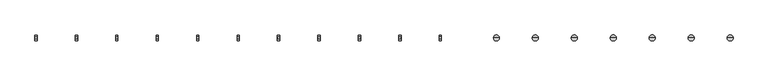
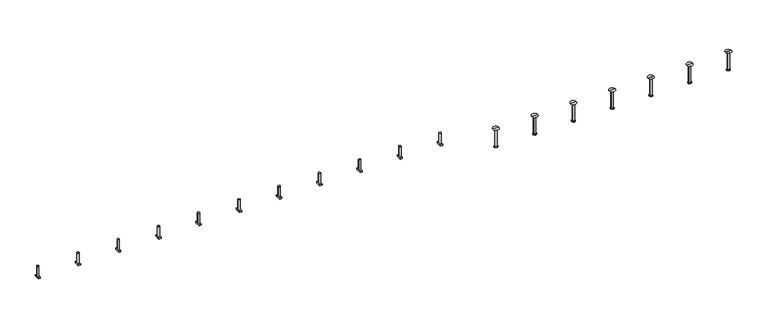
"""IFC4 building model written with IfcOpenShell, lengths in millimetres: fastener geometry, JTA-W JORDAHL® AnchorChannels : JTA-W L=6000 mm."""

from ifc_helpers import new_model, si_unit, frame, origin, place, context, project, spatial, polyline, circle_curve, source, transform, mapped, element, save
from ifc_brep_helpers import plane_surface, cylinder_surface, revolved_surface, advanced_brep


def fastener_c7c1462d(model_context):
    return source(origin(), model_context, "Body", "AdvancedBrep", [
        advanced_brep(
        [(3470.3421053, -20.7, -10.0), (3470.3421053, -20.7, -21.0), (3470.3421053, 20.7, -21.0), (3470.3421053, 20.7, -10.0), (3453.3421053, -20.7, -10.0), (3453.3421053, 20.7, -10.0), (3453.3421053, 20.7, -21.0), (3453.3421053, -20.7, -21.0), (3469.8421053, 0.0, -10.0), (3453.8421053, 0.0, -10.0), (3453.8421053, 0.0, 70.0), (3469.8421053, 0.0, 70.0)],
        [
            (0, 1),
            (1, 2),
            (2, 3),
            (3, 0),
            (4, 5),
            (5, 6),
            (6, 7),
            (7, 4),
            (3, 5),
            (4, 0),
            (8, 9, circle_curve(frame((3461.8421053, 0.0, -10.0), z_axis=(0.0, 0.0, -1.0), x_axis=(1.0, 0.0, 0.0)), 8.0)),
            (9, 8, circle_curve(frame((3461.8421053, 0.0, -10.0), z_axis=(0.0, 0.0, -1.0), x_axis=(1.0, 0.0, 0.0)), 8.0)),
            (2, 6),
            (1, 7),
            (10, 11, circle_curve(frame((3461.8421053, 0.0, 70.0), z_axis=(0.0, 0.0, 1.0), x_axis=(1.0, 0.0, 0.0)), 8.0)),
            (11, 10, circle_curve(frame((3461.8421053, 0.0, 70.0), z_axis=(0.0, 0.0, 1.0), x_axis=(1.0, 0.0, 0.0)), 8.0)),
            (11, 8),
            (9, 10),
        ],
        [
            plane_surface(frame((3470.3421053, 20.7, -10.0), z_axis=(1.0, 0.0, 0.0), x_axis=(0.0, 1.0, 0.0))),
            plane_surface(frame((3453.3421053, 20.7, -10.0), z_axis=(-1.0, 0.0, 0.0), x_axis=(0.0, -1.0, 0.0))),
            plane_surface(frame((3470.3421053, -20.7, -10.0), z_axis=(0.0, 0.0, 1.0), x_axis=(-1.0, 0.0, 0.0))),
            plane_surface(frame((3470.3421053, 20.7, -10.0), z_axis=(0.0, 1.0, 0.0), x_axis=(-1.0, 0.0, 0.0))),
            plane_surface(frame((3470.3421053, 20.7, -21.0), z_axis=(0.0, 0.0, -1.0), x_axis=(-1.0, 0.0, 0.0))),
            plane_surface(frame((3470.3421053, -20.7, -21.0), z_axis=(0.0, -1.0, 0.0), x_axis=(-1.0, 0.0, 0.0))),
            plane_surface(frame((3469.8421053, 0.0, 70.0), z_axis=(0.0, 0.0, 1.0), x_axis=(0.0, -1.0, 0.0))),
            cylinder_surface(frame((3461.8421053, 0.0, -10.0), z_axis=(0.0, 0.0, 1.0), x_axis=(1.0, 0.0, 0.0)), 8.0),
        ],
        [
            (0, [[1, 2, 3, 4]]),
            (1, [[5, 6, 7, 8]]),
            (2, [[9, -5, 10, -4], [11, 12]]),
            (3, [[13, -6, -9, -3]]),
            (4, [[14, -7, -13, -2]]),
            (5, [[-10, -8, -14, -1]]),
            (6, [[15, 16]]),
            (7, [[17, -12, 18, -16]]),
            (7, [[-18, -11, -17, -15]]),
        ],
    ),
        advanced_brep(
        [(3162.4473684, -20.7, -10.0), (3162.4473684, -20.7, -21.0), (3162.4473684, 20.7, -21.0), (3162.4473684, 20.7, -10.0), (3145.4473684, -20.7, -10.0), (3145.4473684, 20.7, -10.0), (3145.4473684, 20.7, -21.0), (3145.4473684, -20.7, -21.0), (3161.9473684, 0.0, -10.0), (3145.9473684, 0.0, -10.0), (3145.9473684, 0.0, 70.0), (3161.9473684, 0.0, 70.0)],
        [
            (0, 1),
            (1, 2),
            (2, 3),
            (3, 0),
            (4, 5),
            (5, 6),
            (6, 7),
            (7, 4),
            (3, 5),
            (4, 0),
            (8, 9, circle_curve(frame((3153.9473684, 0.0, -10.0), z_axis=(0.0, 0.0, -1.0), x_axis=(1.0, 0.0, 0.0)), 8.0)),
            (9, 8, circle_curve(frame((3153.9473684, 0.0, -10.0), z_axis=(0.0, 0.0, -1.0), x_axis=(1.0, 0.0, 0.0)), 8.0)),
            (2, 6),
            (1, 7),
            (10, 11, circle_curve(frame((3153.9473684, 0.0, 70.0), z_axis=(0.0, 0.0, 1.0), x_axis=(1.0, 0.0, 0.0)), 8.0)),
            (11, 10, circle_curve(frame((3153.9473684, 0.0, 70.0), z_axis=(0.0, 0.0, 1.0), x_axis=(1.0, 0.0, 0.0)), 8.0)),
            (11, 8),
            (9, 10),
        ],
        [
            plane_surface(frame((3162.4473684, 20.7, -10.0), z_axis=(1.0, 0.0, 0.0), x_axis=(0.0, 1.0, 0.0))),
            plane_surface(frame((3145.4473684, 20.7, -10.0), z_axis=(-1.0, 0.0, 0.0), x_axis=(0.0, -1.0, 0.0))),
            plane_surface(frame((3162.4473684, -20.7, -10.0), z_axis=(0.0, 0.0, 1.0), x_axis=(-1.0, 0.0, 0.0))),
            plane_surface(frame((3162.4473684, 20.7, -10.0), z_axis=(0.0, 1.0, 0.0), x_axis=(-1.0, 0.0, 0.0))),
            plane_surface(frame((3162.4473684, 20.7, -21.0), z_axis=(0.0, 0.0, -1.0), x_axis=(-1.0, 0.0, 0.0))),
            plane_surface(frame((3162.4473684, -20.7, -21.0), z_axis=(0.0, -1.0, 0.0), x_axis=(-1.0, 0.0, 0.0))),
            plane_surface(frame((3161.9473684, 0.0, 70.0), z_axis=(0.0, 0.0, 1.0), x_axis=(0.0, -1.0, 0.0))),
            cylinder_surface(frame((3153.9473684, 0.0, -10.0), z_axis=(0.0, 0.0, 1.0), x_axis=(1.0, 0.0, 0.0)), 8.0),
        ],
        [
            (0, [[1, 2, 3, 4]]),
            (1, [[5, 6, 7, 8]]),
            (2, [[9, -5, 10, -4], [11, 12]]),
            (3, [[13, -6, -9, -3]]),
            (4, [[14, -7, -13, -2]]),
            (5, [[-10, -8, -14, -1]]),
            (6, [[15, 16]]),
            (7, [[17, -12, 18, -16]]),
            (7, [[-18, -11, -17, -15]]),
        ],
    ),
        advanced_brep(
        [(2854.5526316, -20.7, -10.0), (2854.5526316, -20.7, -21.0), (2854.5526316, 20.7, -21.0), (2854.5526316, 20.7, -10.0), (2837.5526316, -20.7, -10.0), (2837.5526316, 20.7, -10.0), (2837.5526316, 20.7, -21.0), (2837.5526316, -20.7, -21.0), (2854.0526316, 0.0, -10.0), (2838.0526316, 0.0, -10.0), (2838.0526316, 0.0, 70.0), (2854.0526316, 0.0, 70.0)],
        [
            (0, 1),
            (1, 2),
            (2, 3),
            (3, 0),
            (4, 5),
            (5, 6),
            (6, 7),
            (7, 4),
            (3, 5),
            (4, 0),
            (8, 9, circle_curve(frame((2846.0526316, 0.0, -10.0), z_axis=(0.0, 0.0, -1.0), x_axis=(1.0, 0.0, 0.0)), 8.0)),
            (9, 8, circle_curve(frame((2846.0526316, 0.0, -10.0), z_axis=(0.0, 0.0, -1.0), x_axis=(1.0, 0.0, 0.0)), 8.0)),
            (2, 6),
            (1, 7),
            (10, 11, circle_curve(frame((2846.0526316, 0.0, 70.0), z_axis=(0.0, 0.0, 1.0), x_axis=(1.0, 0.0, 0.0)), 8.0)),
            (11, 10, circle_curve(frame((2846.0526316, 0.0, 70.0), z_axis=(0.0, 0.0, 1.0), x_axis=(1.0, 0.0, 0.0)), 8.0)),
            (11, 8),
            (9, 10),
        ],
        [
            plane_surface(frame((2854.5526316, 20.7, -10.0), z_axis=(1.0, 0.0, 0.0), x_axis=(0.0, 1.0, 0.0))),
            plane_surface(frame((2837.5526316, 20.7, -10.0), z_axis=(-1.0, 0.0, 0.0), x_axis=(0.0, -1.0, 0.0))),
            plane_surface(frame((2854.5526316, -20.7, -10.0), z_axis=(0.0, 0.0, 1.0), x_axis=(-1.0, 0.0, 0.0))),
            plane_surface(frame((2854.5526316, 20.7, -10.0), z_axis=(0.0, 1.0, 0.0), x_axis=(-1.0, 0.0, 0.0))),
            plane_surface(frame((2854.5526316, 20.7, -21.0), z_axis=(0.0, 0.0, -1.0), x_axis=(-1.0, 0.0, 0.0))),
            plane_surface(frame((2854.5526316, -20.7, -21.0), z_axis=(0.0, -1.0, 0.0), x_axis=(-1.0, 0.0, 0.0))),
            plane_surface(frame((2854.0526316, 0.0, 70.0), z_axis=(0.0, 0.0, 1.0), x_axis=(0.0, -1.0, 0.0))),
            cylinder_surface(frame((2846.0526316, 0.0, -10.0), z_axis=(0.0, 0.0, 1.0), x_axis=(1.0, 0.0, 0.0)), 8.0),
        ],
        [
            (0, [[1, 2, 3, 4]]),
            (1, [[5, 6, 7, 8]]),
            (2, [[9, -5, 10, -4], [11, 12]]),
            (3, [[13, -6, -9, -3]]),
            (4, [[14, -7, -13, -2]]),
            (5, [[-10, -8, -14, -1]]),
            (6, [[15, 16]]),
            (7, [[17, -12, 18, -16]]),
            (7, [[-18, -11, -17, -15]]),
        ],
    ),
        advanced_brep(
        [(2546.6578947, -20.7, -10.0), (2546.6578947, -20.7, -21.0), (2546.6578947, 20.7, -21.0), (2546.6578947, 20.7, -10.0), (2529.6578947, -20.7, -10.0), (2529.6578947, 20.7, -10.0), (2529.6578947, 20.7, -21.0), (2529.6578947, -20.7, -21.0), (2546.1578947, 0.0, -10.0), (2530.1578947, 0.0, -10.0), (2530.1578947, 0.0, 70.0), (2546.1578947, 0.0, 70.0)],
        [
            (0, 1),
            (1, 2),
            (2, 3),
            (3, 0),
            (4, 5),
            (5, 6),
            (6, 7),
            (7, 4),
            (3, 5),
            (4, 0),
            (8, 9, circle_curve(frame((2538.1578947, 0.0, -10.0), z_axis=(0.0, 0.0, -1.0), x_axis=(1.0, 0.0, 0.0)), 8.0)),
            (9, 8, circle_curve(frame((2538.1578947, 0.0, -10.0), z_axis=(0.0, 0.0, -1.0), x_axis=(1.0, 0.0, 0.0)), 8.0)),
            (2, 6),
            (1, 7),
            (10, 11, circle_curve(frame((2538.1578947, 0.0, 70.0), z_axis=(0.0, 0.0, 1.0), x_axis=(1.0, 0.0, 0.0)), 8.0)),
            (11, 10, circle_curve(frame((2538.1578947, 0.0, 70.0), z_axis=(0.0, 0.0, 1.0), x_axis=(1.0, 0.0, 0.0)), 8.0)),
            (11, 8),
            (9, 10),
        ],
        [
            plane_surface(frame((2546.6578947, 20.7, -10.0), z_axis=(1.0, 0.0, 0.0), x_axis=(0.0, 1.0, 0.0))),
            plane_surface(frame((2529.6578947, 20.7, -10.0), z_axis=(-1.0, 0.0, 0.0), x_axis=(0.0, -1.0, 0.0))),
            plane_surface(frame((2546.6578947, -20.7, -10.0), z_axis=(0.0, 0.0, 1.0), x_axis=(-1.0, 0.0, 0.0))),
            plane_surface(frame((2546.6578947, 20.7, -10.0), z_axis=(0.0, 1.0, 0.0), x_axis=(-1.0, 0.0, 0.0))),
            plane_surface(frame((2546.6578947, 20.7, -21.0), z_axis=(0.0, 0.0, -1.0), x_axis=(-1.0, 0.0, 0.0))),
            plane_surface(frame((2546.6578947, -20.7, -21.0), z_axis=(0.0, -1.0, 0.0), x_axis=(-1.0, 0.0, 0.0))),
            plane_surface(frame((2546.1578947, 0.0, 70.0), z_axis=(0.0, 0.0, 1.0), x_axis=(0.0, -1.0, 0.0))),
            cylinder_surface(frame((2538.1578947, 0.0, -10.0), z_axis=(0.0, 0.0, 1.0), x_axis=(1.0, 0.0, 0.0)), 8.0),
        ],
        [
            (0, [[1, 2, 3, 4]]),
            (1, [[5, 6, 7, 8]]),
            (2, [[9, -5, 10, -4], [11, 12]]),
            (3, [[13, -6, -9, -3]]),
            (4, [[14, -7, -13, -2]]),
            (5, [[-10, -8, -14, -1]]),
            (6, [[15, 16]]),
            (7, [[17, -12, 18, -16]]),
            (7, [[-18, -11, -17, -15]]),
        ],
    ),
        advanced_brep(
        [(2238.7631579, -20.7, -10.0), (2238.7631579, -20.7, -21.0), (2238.7631579, 20.7, -21.0), (2238.7631579, 20.7, -10.0), (2221.7631579, -20.7, -10.0), (2221.7631579, 20.7, -10.0), (2221.7631579, 20.7, -21.0), (2221.7631579, -20.7, -21.0), (2238.2631579, 0.0, -10.0), (2222.2631579, 0.0, -10.0), (2222.2631579, 0.0, 70.0), (2238.2631579, 0.0, 70.0)],
        [
            (0, 1),
            (1, 2),
            (2, 3),
            (3, 0),
            (4, 5),
            (5, 6),
            (6, 7),
            (7, 4),
            (3, 5),
            (4, 0),
            (8, 9, circle_curve(frame((2230.2631579, 0.0, -10.0), z_axis=(0.0, 0.0, -1.0), x_axis=(1.0, 0.0, 0.0)), 8.0)),
            (9, 8, circle_curve(frame((2230.2631579, 0.0, -10.0), z_axis=(0.0, 0.0, -1.0), x_axis=(1.0, 0.0, 0.0)), 8.0)),
            (2, 6),
            (1, 7),
            (10, 11, circle_curve(frame((2230.2631579, 0.0, 70.0), z_axis=(0.0, 0.0, 1.0), x_axis=(1.0, 0.0, 0.0)), 8.0)),
            (11, 10, circle_curve(frame((2230.2631579, 0.0, 70.0), z_axis=(0.0, 0.0, 1.0), x_axis=(1.0, 0.0, 0.0)), 8.0)),
            (11, 8),
            (9, 10),
        ],
        [
            plane_surface(frame((2238.7631579, 20.7, -10.0), z_axis=(1.0, 0.0, 0.0), x_axis=(0.0, 1.0, 0.0))),
            plane_surface(frame((2221.7631579, 20.7, -10.0), z_axis=(-1.0, 0.0, 0.0), x_axis=(0.0, -1.0, 0.0))),
            plane_surface(frame((2238.7631579, -20.7, -10.0), z_axis=(0.0, 0.0, 1.0), x_axis=(-1.0, 0.0, 0.0))),
            plane_surface(frame((2238.7631579, 20.7, -10.0), z_axis=(0.0, 1.0, 0.0), x_axis=(-1.0, 0.0, 0.0))),
            plane_surface(frame((2238.7631579, 20.7, -21.0), z_axis=(0.0, 0.0, -1.0), x_axis=(-1.0, 0.0, 0.0))),
            plane_surface(frame((2238.7631579, -20.7, -21.0), z_axis=(0.0, -1.0, 0.0), x_axis=(-1.0, 0.0, 0.0))),
            plane_surface(frame((2238.2631579, 0.0, 70.0), z_axis=(0.0, 0.0, 1.0), x_axis=(0.0, -1.0, 0.0))),
            cylinder_surface(frame((2230.2631579, 0.0, -10.0), z_axis=(0.0, 0.0, 1.0), x_axis=(1.0, 0.0, 0.0)), 8.0),
        ],
        [
            (0, [[1, 2, 3, 4]]),
            (1, [[5, 6, 7, 8]]),
            (2, [[9, -5, 10, -4], [11, 12]]),
            (3, [[13, -6, -9, -3]]),
            (4, [[14, -7, -13, -2]]),
            (5, [[-10, -8, -14, -1]]),
            (6, [[15, 16]]),
            (7, [[17, -12, 18, -16]]),
            (7, [[-18, -11, -17, -15]]),
        ],
    ),
        advanced_brep(
        [(1930.8684211, -20.7, -10.0), (1930.8684211, -20.7, -21.0), (1930.8684211, 20.7, -21.0), (1930.8684211, 20.7, -10.0), (1913.8684211, -20.7, -10.0), (1913.8684211, 20.7, -10.0), (1913.8684211, 20.7, -21.0), (1913.8684211, -20.7, -21.0), (1930.3684211, 0.0, -10.0), (1914.3684211, 0.0, -10.0), (1914.3684211, 0.0, 70.0), (1930.3684211, 0.0, 70.0)],
        [
            (0, 1),
            (1, 2),
            (2, 3),
            (3, 0),
            (4, 5),
            (5, 6),
            (6, 7),
            (7, 4),
            (3, 5),
            (4, 0),
            (8, 9, circle_curve(frame((1922.3684211, 0.0, -10.0), z_axis=(0.0, 0.0, -1.0), x_axis=(1.0, 0.0, 0.0)), 8.0)),
            (9, 8, circle_curve(frame((1922.3684211, 0.0, -10.0), z_axis=(0.0, 0.0, -1.0), x_axis=(1.0, 0.0, 0.0)), 8.0)),
            (2, 6),
            (1, 7),
            (10, 11, circle_curve(frame((1922.3684211, 0.0, 70.0), z_axis=(0.0, 0.0, 1.0), x_axis=(1.0, 0.0, 0.0)), 8.0)),
            (11, 10, circle_curve(frame((1922.3684211, 0.0, 70.0), z_axis=(0.0, 0.0, 1.0), x_axis=(1.0, 0.0, 0.0)), 8.0)),
            (11, 8),
            (9, 10),
        ],
        [
            plane_surface(frame((1930.8684211, 20.7, -10.0), z_axis=(1.0, 0.0, 0.0), x_axis=(0.0, 1.0, 0.0))),
            plane_surface(frame((1913.8684211, 20.7, -10.0), z_axis=(-1.0, 0.0, 0.0), x_axis=(0.0, -1.0, 0.0))),
            plane_surface(frame((1930.8684211, -20.7, -10.0), z_axis=(0.0, 0.0, 1.0), x_axis=(-1.0, 0.0, 0.0))),
            plane_surface(frame((1930.8684211, 20.7, -10.0), z_axis=(0.0, 1.0, 0.0), x_axis=(-1.0, 0.0, 0.0))),
            plane_surface(frame((1930.8684211, 20.7, -21.0), z_axis=(0.0, 0.0, -1.0), x_axis=(-1.0, 0.0, 0.0))),
            plane_surface(frame((1930.8684211, -20.7, -21.0), z_axis=(0.0, -1.0, 0.0), x_axis=(-1.0, 0.0, 0.0))),
            plane_surface(frame((1930.3684211, 0.0, 70.0), z_axis=(0.0, 0.0, 1.0), x_axis=(0.0, -1.0, 0.0))),
            cylinder_surface(frame((1922.3684211, 0.0, -10.0), z_axis=(0.0, 0.0, 1.0), x_axis=(1.0, 0.0, 0.0)), 8.0),
        ],
        [
            (0, [[1, 2, 3, 4]]),
            (1, [[5, 6, 7, 8]]),
            (2, [[9, -5, 10, -4], [11, 12]]),
            (3, [[13, -6, -9, -3]]),
            (4, [[14, -7, -13, -2]]),
            (5, [[-10, -8, -14, -1]]),
            (6, [[15, 16]]),
            (7, [[17, -12, 18, -16]]),
            (7, [[-18, -11, -17, -15]]),
        ],
    ),
        advanced_brep(
        [(1622.9736842, -20.7, -10.0), (1622.9736842, -20.7, -21.0), (1622.9736842, 20.7, -21.0), (1622.9736842, 20.7, -10.0), (1605.9736842, -20.7, -10.0), (1605.9736842, 20.7, -10.0), (1605.9736842, 20.7, -21.0), (1605.9736842, -20.7, -21.0), (1622.4736842, 0.0, -10.0), (1606.4736842, 0.0, -10.0), (1606.4736842, 0.0, 70.0), (1622.4736842, 0.0, 70.0)],
        [
            (0, 1),
            (1, 2),
            (2, 3),
            (3, 0),
            (4, 5),
            (5, 6),
            (6, 7),
            (7, 4),
            (3, 5),
            (4, 0),
            (8, 9, circle_curve(frame((1614.4736842, 0.0, -10.0), z_axis=(0.0, 0.0, -1.0), x_axis=(1.0, 0.0, 0.0)), 8.0)),
            (9, 8, circle_curve(frame((1614.4736842, 0.0, -10.0), z_axis=(0.0, 0.0, -1.0), x_axis=(1.0, 0.0, 0.0)), 8.0)),
            (2, 6),
            (1, 7),
            (10, 11, circle_curve(frame((1614.4736842, 0.0, 70.0), z_axis=(0.0, 0.0, 1.0), x_axis=(1.0, 0.0, 0.0)), 8.0)),
            (11, 10, circle_curve(frame((1614.4736842, 0.0, 70.0), z_axis=(0.0, 0.0, 1.0), x_axis=(1.0, 0.0, 0.0)), 8.0)),
            (11, 8),
            (9, 10),
        ],
        [
            plane_surface(frame((1622.9736842, 20.7, -10.0), z_axis=(1.0, 0.0, 0.0), x_axis=(0.0, 1.0, 0.0))),
            plane_surface(frame((1605.9736842, 20.7, -10.0), z_axis=(-1.0, 0.0, 0.0), x_axis=(0.0, -1.0, 0.0))),
            plane_surface(frame((1622.9736842, -20.7, -10.0), z_axis=(0.0, 0.0, 1.0), x_axis=(-1.0, 0.0, 0.0))),
            plane_surface(frame((1622.9736842, 20.7, -10.0), z_axis=(0.0, 1.0, 0.0), x_axis=(-1.0, 0.0, 0.0))),
            plane_surface(frame((1622.9736842, 20.7, -21.0), z_axis=(0.0, 0.0, -1.0), x_axis=(-1.0, 0.0, 0.0))),
            plane_surface(frame((1622.9736842, -20.7, -21.0), z_axis=(0.0, -1.0, 0.0), x_axis=(-1.0, 0.0, 0.0))),
            plane_surface(frame((1622.4736842, 0.0, 70.0), z_axis=(0.0, 0.0, 1.0), x_axis=(0.0, -1.0, 0.0))),
            cylinder_surface(frame((1614.4736842, 0.0, -10.0), z_axis=(0.0, 0.0, 1.0), x_axis=(1.0, 0.0, 0.0)), 8.0),
        ],
        [
            (0, [[1, 2, 3, 4]]),
            (1, [[5, 6, 7, 8]]),
            (2, [[9, -5, 10, -4], [11, 12]]),
            (3, [[13, -6, -9, -3]]),
            (4, [[14, -7, -13, -2]]),
            (5, [[-10, -8, -14, -1]]),
            (6, [[15, 16]]),
            (7, [[17, -12, 18, -16]]),
            (7, [[-18, -11, -17, -15]]),
        ],
    ),
        advanced_brep(
        [(1315.0789474, -20.7, -10.0), (1315.0789474, -20.7, -21.0), (1315.0789474, 20.7, -21.0), (1315.0789474, 20.7, -10.0), (1298.0789474, -20.7, -10.0), (1298.0789474, 20.7, -10.0), (1298.0789474, 20.7, -21.0), (1298.0789474, -20.7, -21.0), (1314.5789474, 0.0, -10.0), (1298.5789474, 0.0, -10.0), (1298.5789474, 0.0, 70.0), (1314.5789474, 0.0, 70.0)],
        [
            (0, 1),
            (1, 2),
            (2, 3),
            (3, 0),
            (4, 5),
            (5, 6),
            (6, 7),
            (7, 4),
            (3, 5),
            (4, 0),
            (8, 9, circle_curve(frame((1306.5789474, 0.0, -10.0), z_axis=(0.0, 0.0, -1.0), x_axis=(1.0, 0.0, 0.0)), 8.0)),
            (9, 8, circle_curve(frame((1306.5789474, 0.0, -10.0), z_axis=(0.0, 0.0, -1.0), x_axis=(1.0, 0.0, 0.0)), 8.0)),
            (2, 6),
            (1, 7),
            (10, 11, circle_curve(frame((1306.5789474, 0.0, 70.0), z_axis=(0.0, 0.0, 1.0), x_axis=(1.0, 0.0, 0.0)), 8.0)),
            (11, 10, circle_curve(frame((1306.5789474, 0.0, 70.0), z_axis=(0.0, 0.0, 1.0), x_axis=(1.0, 0.0, 0.0)), 8.0)),
            (11, 8),
            (9, 10),
        ],
        [
            plane_surface(frame((1315.0789474, 20.7, -10.0), z_axis=(1.0, 0.0, 0.0), x_axis=(0.0, 1.0, 0.0))),
            plane_surface(frame((1298.0789474, 20.7, -10.0), z_axis=(-1.0, 0.0, 0.0), x_axis=(0.0, -1.0, 0.0))),
            plane_surface(frame((1315.0789474, -20.7, -10.0), z_axis=(0.0, 0.0, 1.0), x_axis=(-1.0, 0.0, 0.0))),
            plane_surface(frame((1315.0789474, 20.7, -10.0), z_axis=(0.0, 1.0, 0.0), x_axis=(-1.0, 0.0, 0.0))),
            plane_surface(frame((1315.0789474, 20.7, -21.0), z_axis=(0.0, 0.0, -1.0), x_axis=(-1.0, 0.0, 0.0))),
            plane_surface(frame((1315.0789474, -20.7, -21.0), z_axis=(0.0, -1.0, 0.0), x_axis=(-1.0, 0.0, 0.0))),
            plane_surface(frame((1314.5789474, 0.0, 70.0), z_axis=(0.0, 0.0, 1.0), x_axis=(0.0, -1.0, 0.0))),
            cylinder_surface(frame((1306.5789474, 0.0, -10.0), z_axis=(0.0, 0.0, 1.0), x_axis=(1.0, 0.0, 0.0)), 8.0),
        ],
        [
            (0, [[1, 2, 3, 4]]),
            (1, [[5, 6, 7, 8]]),
            (2, [[9, -5, 10, -4], [11, 12]]),
            (3, [[13, -6, -9, -3]]),
            (4, [[14, -7, -13, -2]]),
            (5, [[-10, -8, -14, -1]]),
            (6, [[15, 16]]),
            (7, [[17, -12, 18, -16]]),
            (7, [[-18, -11, -17, -15]]),
        ],
    ),
        advanced_brep(
        [(1007.1842105, -20.7, -10.0), (1007.1842105, -20.7, -21.0), (1007.1842105, 20.7, -21.0), (1007.1842105, 20.7, -10.0), (990.1842105, -20.7, -10.0), (990.1842105, 20.7, -10.0), (990.1842105, 20.7, -21.0), (990.1842105, -20.7, -21.0), (1006.6842105, 0.0, -10.0), (990.6842105, 0.0, -10.0), (990.6842105, 0.0, 70.0), (1006.6842105, 0.0, 70.0)],
        [
            (0, 1),
            (1, 2),
            (2, 3),
            (3, 0),
            (4, 5),
            (5, 6),
            (6, 7),
            (7, 4),
            (3, 5),
            (4, 0),
            (8, 9, circle_curve(frame((998.6842105, 0.0, -10.0), z_axis=(0.0, 0.0, -1.0), x_axis=(1.0, 0.0, 0.0)), 8.0)),
            (9, 8, circle_curve(frame((998.6842105, 0.0, -10.0), z_axis=(0.0, 0.0, -1.0), x_axis=(1.0, 0.0, 0.0)), 8.0)),
            (2, 6),
            (1, 7),
            (10, 11, circle_curve(frame((998.6842105, 0.0, 70.0), z_axis=(0.0, 0.0, 1.0), x_axis=(1.0, 0.0, 0.0)), 8.0)),
            (11, 10, circle_curve(frame((998.6842105, 0.0, 70.0), z_axis=(0.0, 0.0, 1.0), x_axis=(1.0, 0.0, 0.0)), 8.0)),
            (11, 8),
            (9, 10),
        ],
        [
            plane_surface(frame((1007.1842105, 20.7, -10.0), z_axis=(1.0, 0.0, 0.0), x_axis=(0.0, 1.0, 0.0))),
            plane_surface(frame((990.1842105, 20.7, -10.0), z_axis=(-1.0, 0.0, 0.0), x_axis=(0.0, -1.0, 0.0))),
            plane_surface(frame((1007.1842105, -20.7, -10.0), z_axis=(0.0, 0.0, 1.0), x_axis=(-1.0, 0.0, 0.0))),
            plane_surface(frame((1007.1842105, 20.7, -10.0), z_axis=(0.0, 1.0, 0.0), x_axis=(-1.0, 0.0, 0.0))),
            plane_surface(frame((1007.1842105, 20.7, -21.0), z_axis=(0.0, 0.0, -1.0), x_axis=(-1.0, 0.0, 0.0))),
            plane_surface(frame((1007.1842105, -20.7, -21.0), z_axis=(0.0, -1.0, 0.0), x_axis=(-1.0, 0.0, 0.0))),
            plane_surface(frame((1006.6842105, 0.0, 70.0), z_axis=(0.0, 0.0, 1.0), x_axis=(0.0, -1.0, 0.0))),
            cylinder_surface(frame((998.6842105, 0.0, -10.0), z_axis=(0.0, 0.0, 1.0), x_axis=(1.0, 0.0, 0.0)), 8.0),
        ],
        [
            (0, [[1, 2, 3, 4]]),
            (1, [[5, 6, 7, 8]]),
            (2, [[9, -5, 10, -4], [11, 12]]),
            (3, [[13, -6, -9, -3]]),
            (4, [[14, -7, -13, -2]]),
            (5, [[-10, -8, -14, -1]]),
            (6, [[15, 16]]),
            (7, [[17, -12, 18, -16]]),
            (7, [[-18, -11, -17, -15]]),
        ],
    ),
        advanced_brep(
        [(699.2894737, -20.7, -10.0), (699.2894737, -20.7, -21.0), (699.2894737, 20.7, -21.0), (699.2894737, 20.7, -10.0), (682.2894737, -20.7, -10.0), (682.2894737, 20.7, -10.0), (682.2894737, 20.7, -21.0), (682.2894737, -20.7, -21.0), (698.7894737, 0.0, -10.0), (682.7894737, 0.0, -10.0), (682.7894737, 0.0, 70.0), (698.7894737, 0.0, 70.0)],
        [
            (0, 1),
            (1, 2),
            (2, 3),
            (3, 0),
            (4, 5),
            (5, 6),
            (6, 7),
            (7, 4),
            (3, 5),
            (4, 0),
            (8, 9, circle_curve(frame((690.7894737, 0.0, -10.0), z_axis=(0.0, 0.0, -1.0), x_axis=(1.0, 0.0, 0.0)), 8.0)),
            (9, 8, circle_curve(frame((690.7894737, 0.0, -10.0), z_axis=(0.0, 0.0, -1.0), x_axis=(1.0, 0.0, 0.0)), 8.0)),
            (2, 6),
            (1, 7),
            (10, 11, circle_curve(frame((690.7894737, 0.0, 70.0), z_axis=(0.0, 0.0, 1.0), x_axis=(1.0, 0.0, 0.0)), 8.0)),
            (11, 10, circle_curve(frame((690.7894737, 0.0, 70.0), z_axis=(0.0, 0.0, 1.0), x_axis=(1.0, 0.0, 0.0)), 8.0)),
            (11, 8),
            (9, 10),
        ],
        [
            plane_surface(frame((699.2894737, 20.7, -10.0), z_axis=(1.0, 0.0, 0.0), x_axis=(0.0, 1.0, 0.0))),
            plane_surface(frame((682.2894737, 20.7, -10.0), z_axis=(-1.0, 0.0, 0.0), x_axis=(0.0, -1.0, 0.0))),
            plane_surface(frame((699.2894737, -20.7, -10.0), z_axis=(0.0, 0.0, 1.0), x_axis=(-1.0, 0.0, 0.0))),
            plane_surface(frame((699.2894737, 20.7, -10.0), z_axis=(0.0, 1.0, 0.0), x_axis=(-1.0, 0.0, 0.0))),
            plane_surface(frame((699.2894737, 20.7, -21.0), z_axis=(0.0, 0.0, -1.0), x_axis=(-1.0, 0.0, 0.0))),
            plane_surface(frame((699.2894737, -20.7, -21.0), z_axis=(0.0, -1.0, 0.0), x_axis=(-1.0, 0.0, 0.0))),
            plane_surface(frame((698.7894737, 0.0, 70.0), z_axis=(0.0, 0.0, 1.0), x_axis=(0.0, -1.0, 0.0))),
            cylinder_surface(frame((690.7894737, 0.0, -10.0), z_axis=(0.0, 0.0, 1.0), x_axis=(1.0, 0.0, 0.0)), 8.0),
        ],
        [
            (0, [[1, 2, 3, 4]]),
            (1, [[5, 6, 7, 8]]),
            (2, [[9, -5, 10, -4], [11, 12]]),
            (3, [[13, -6, -9, -3]]),
            (4, [[14, -7, -13, -2]]),
            (5, [[-10, -8, -14, -1]]),
            (6, [[15, 16]]),
            (7, [[17, -12, 18, -16]]),
            (7, [[-18, -11, -17, -15]]),
        ],
    ),
        advanced_brep(
        [(391.3947368, -20.7, -10.0), (391.3947368, -20.7, -21.0), (391.3947368, 20.7, -21.0), (391.3947368, 20.7, -10.0), (374.3947368, -20.7, -10.0), (374.3947368, 20.7, -10.0), (374.3947368, 20.7, -21.0), (374.3947368, -20.7, -21.0), (390.8947368, 0.0, -10.0), (374.8947368, 0.0, -10.0), (374.8947368, 0.0, 70.0), (390.8947368, 0.0, 70.0)],
        [
            (0, 1),
            (1, 2),
            (2, 3),
            (3, 0),
            (4, 5),
            (5, 6),
            (6, 7),
            (7, 4),
            (3, 5),
            (4, 0),
            (8, 9, circle_curve(frame((382.8947368, 0.0, -10.0), z_axis=(0.0, 0.0, -1.0), x_axis=(1.0, 0.0, 0.0)), 8.0)),
            (9, 8, circle_curve(frame((382.8947368, 0.0, -10.0), z_axis=(0.0, 0.0, -1.0), x_axis=(1.0, 0.0, 0.0)), 8.0)),
            (2, 6),
            (1, 7),
            (10, 11, circle_curve(frame((382.8947368, 0.0, 70.0), z_axis=(0.0, 0.0, 1.0), x_axis=(1.0, 0.0, 0.0)), 8.0)),
            (11, 10, circle_curve(frame((382.8947368, 0.0, 70.0), z_axis=(0.0, 0.0, 1.0), x_axis=(1.0, 0.0, 0.0)), 8.0)),
            (11, 8),
            (9, 10),
        ],
        [
            plane_surface(frame((391.3947368, 20.7, -10.0), z_axis=(1.0, 0.0, 0.0), x_axis=(0.0, 1.0, 0.0))),
            plane_surface(frame((374.3947368, 20.7, -10.0), z_axis=(-1.0, 0.0, 0.0), x_axis=(0.0, -1.0, 0.0))),
            plane_surface(frame((391.3947368, -20.7, -10.0), z_axis=(0.0, 0.0, 1.0), x_axis=(-1.0, 0.0, 0.0))),
            plane_surface(frame((391.3947368, 20.7, -10.0), z_axis=(0.0, 1.0, 0.0), x_axis=(-1.0, 0.0, 0.0))),
            plane_surface(frame((391.3947368, 20.7, -21.0), z_axis=(0.0, 0.0, -1.0), x_axis=(-1.0, 0.0, 0.0))),
            plane_surface(frame((391.3947368, -20.7, -21.0), z_axis=(0.0, -1.0, 0.0), x_axis=(-1.0, 0.0, 0.0))),
            plane_surface(frame((390.8947368, 0.0, 70.0), z_axis=(0.0, 0.0, 1.0), x_axis=(0.0, -1.0, 0.0))),
            cylinder_surface(frame((382.8947368, 0.0, -10.0), z_axis=(0.0, 0.0, 1.0), x_axis=(1.0, 0.0, 0.0)), 8.0),
        ],
        [
            (0, [[1, 2, 3, 4]]),
            (1, [[5, 6, 7, 8]]),
            (2, [[9, -5, 10, -4], [11, 12]]),
            (3, [[13, -6, -9, -3]]),
            (4, [[14, -7, -13, -2]]),
            (5, [[-10, -8, -14, -1]]),
            (6, [[15, 16]]),
            (7, [[17, -12, 18, -16]]),
            (7, [[-18, -11, -17, -15]]),
        ],
    ),
        advanced_brep(
        [(5668.5, 0.0, -42.0), (5645.5, 0.0, -42.0), (5691.5, 0.0, -42.0), (5654.5, 0.0, -190.0), (5668.5, 0.0, -190.0), (5682.5, 0.0, -190.0), (5654.5, 0.0, -188.0), (5682.5, 0.0, -188.0), (5660.7, 0.0, -184.4204283), (5676.3, 0.0, -184.4204283), (5660.7, 0.0, -46.0), (5676.3, 0.0, -46.0)],
        [
            (0, 1),
            (1, 2, circle_curve(frame((5668.5, 0.0, -42.0), z_axis=(0.0, 0.0, 1.0), x_axis=(1.0, 0.0, 0.0)), 23.0)),
            (2, 0),
            (2, 1, circle_curve(frame((5668.5, 0.0, -42.0), z_axis=(0.0, 0.0, 1.0), x_axis=(1.0, 0.0, 0.0)), 23.0)),
            (3, 4),
            (4, 5),
            (5, 3, circle_curve(frame((5668.5, 0.0, -190.0), z_axis=(0.0, 0.0, -1.0), x_axis=(1.0, 0.0, 0.0)), 14.0)),
            (3, 5, circle_curve(frame((5668.5, 0.0, -190.0), z_axis=(0.0, 0.0, -1.0), x_axis=(1.0, 0.0, 0.0)), 14.0)),
            (6, 3),
            (5, 7),
            (7, 6, circle_curve(frame((5668.5, 0.0, -188.0), z_axis=(0.0, 0.0, -1.0), x_axis=(1.0, 0.0, 0.0)), 14.0)),
            (6, 7, circle_curve(frame((5668.5, 0.0, -188.0), z_axis=(0.0, 0.0, -1.0), x_axis=(1.0, 0.0, 0.0)), 14.0)),
            (8, 6),
            (7, 9),
            (9, 8, circle_curve(frame((5668.5, 0.0, -184.4204283), z_axis=(0.0, 0.0, -1.0), x_axis=(1.0, 0.0, 0.0)), 7.8)),
            (8, 9, circle_curve(frame((5668.5, 0.0, -184.4204283), z_axis=(0.0, 0.0, -1.0), x_axis=(1.0, 0.0, 0.0)), 7.8)),
            (10, 8),
            (9, 11),
            (11, 10, circle_curve(frame((5668.5, 0.0, -46.0), z_axis=(0.0, 0.0, -1.0), x_axis=(1.0, 0.0, 0.0)), 7.8)),
            (10, 11, circle_curve(frame((5668.5, 0.0, -46.0), z_axis=(0.0, 0.0, -1.0), x_axis=(1.0, 0.0, 0.0)), 7.8)),
            (1, 10),
            (11, 2),
        ],
        [
            plane_surface(frame((5668.5, 0.0, -42.0), z_axis=(0.0, 0.0, 1.0), x_axis=(1.0, 0.0, 0.0))),
            plane_surface(frame((5668.5, 0.0, -190.0), z_axis=(0.0, 0.0, -1.0), x_axis=(1.0, 0.0, 0.0))),
            cylinder_surface(frame((5668.5, 0.0, 2362.3150031), z_axis=(0.0, 0.0, 1.0), x_axis=(1.0, 0.0, 0.0)), 14.0),
            revolved_surface(polyline([(5682.5, 0.0, -188.0), (5676.3, 0.0, -184.4204283)]), (5668.5, 0.0, 2362.3150031), (0.0, 0.0, 1.0)),
            cylinder_surface(frame((5668.5, 0.0, 2362.3150031), z_axis=(0.0, 0.0, 1.0), x_axis=(1.0, 0.0, 0.0)), 7.8),
            revolved_surface(polyline([(5676.3, 0.0, -46.0), (5691.5, 0.0, -42.0)]), (5668.5, 0.0, 2362.3150031), (0.0, 0.0, 1.0)),
        ],
        [
            (0, [[1, 2, 3]]),
            (0, [[-3, 4, -1]]),
            (1, [[5, 6, 7]]),
            (1, [[-6, -5, 8]]),
            (2, [[9, -7, 10, 11]]),
            (2, [[-10, -8, -9, 12]]),
            (3, [[13, -11, 14, 15]]),
            (3, [[-14, -12, -13, 16]]),
            (4, [[17, -15, 18, 19]]),
            (4, [[-18, -16, -17, 20]]),
            (5, [[21, -19, 22, -2]]),
            (5, [[-22, -20, -21, -4]]),
        ],
    ),
        advanced_brep(
        [(5372.0, 0.0, -42.0), (5349.0, 0.0, -42.0), (5395.0, 0.0, -42.0), (5358.0, 0.0, -190.0), (5372.0, 0.0, -190.0), (5386.0, 0.0, -190.0), (5358.0, 0.0, -188.0), (5386.0, 0.0, -188.0), (5364.2, 0.0, -184.4204283), (5379.8, 0.0, -184.4204283), (5364.2, 0.0, -46.0), (5379.8, 0.0, -46.0)],
        [
            (0, 1),
            (1, 2, circle_curve(frame((5372.0, 0.0, -42.0), z_axis=(0.0, 0.0, 1.0), x_axis=(1.0, 0.0, 0.0)), 23.0)),
            (2, 0),
            (2, 1, circle_curve(frame((5372.0, 0.0, -42.0), z_axis=(0.0, 0.0, 1.0), x_axis=(1.0, 0.0, 0.0)), 23.0)),
            (3, 4),
            (4, 5),
            (5, 3, circle_curve(frame((5372.0, 0.0, -190.0), z_axis=(0.0, 0.0, -1.0), x_axis=(1.0, 0.0, 0.0)), 14.0)),
            (3, 5, circle_curve(frame((5372.0, 0.0, -190.0), z_axis=(0.0, 0.0, -1.0), x_axis=(1.0, 0.0, 0.0)), 14.0)),
            (6, 3),
            (5, 7),
            (7, 6, circle_curve(frame((5372.0, 0.0, -188.0), z_axis=(0.0, 0.0, -1.0), x_axis=(1.0, 0.0, 0.0)), 14.0)),
            (6, 7, circle_curve(frame((5372.0, 0.0, -188.0), z_axis=(0.0, 0.0, -1.0), x_axis=(1.0, 0.0, 0.0)), 14.0)),
            (8, 6),
            (7, 9),
            (9, 8, circle_curve(frame((5372.0, 0.0, -184.4204283), z_axis=(0.0, 0.0, -1.0), x_axis=(1.0, 0.0, 0.0)), 7.8)),
            (8, 9, circle_curve(frame((5372.0, 0.0, -184.4204283), z_axis=(0.0, 0.0, -1.0), x_axis=(1.0, 0.0, 0.0)), 7.8)),
            (10, 8),
            (9, 11),
            (11, 10, circle_curve(frame((5372.0, 0.0, -46.0), z_axis=(0.0, 0.0, -1.0), x_axis=(1.0, 0.0, 0.0)), 7.8)),
            (10, 11, circle_curve(frame((5372.0, 0.0, -46.0), z_axis=(0.0, 0.0, -1.0), x_axis=(1.0, 0.0, 0.0)), 7.8)),
            (1, 10),
            (11, 2),
        ],
        [
            plane_surface(frame((5372.0, 0.0, -42.0), z_axis=(0.0, 0.0, 1.0), x_axis=(1.0, 0.0, 0.0))),
            plane_surface(frame((5372.0, 0.0, -190.0), z_axis=(0.0, 0.0, -1.0), x_axis=(1.0, 0.0, 0.0))),
            cylinder_surface(frame((5372.0, 0.0, 2362.3150031), z_axis=(0.0, 0.0, 1.0), x_axis=(1.0, 0.0, 0.0)), 14.0),
            revolved_surface(polyline([(5386.0, 0.0, -188.0), (5379.8, 0.0, -184.4204283)]), (5372.0, 0.0, 2362.3150031), (0.0, 0.0, 1.0)),
            cylinder_surface(frame((5372.0, 0.0, 2362.3150031), z_axis=(0.0, 0.0, 1.0), x_axis=(1.0, 0.0, 0.0)), 7.8),
            revolved_surface(polyline([(5379.8, 0.0, -46.0), (5395.0, 0.0, -42.0)]), (5372.0, 0.0, 2362.3150031), (0.0, 0.0, 1.0)),
        ],
        [
            (0, [[1, 2, 3]]),
            (0, [[-3, 4, -1]]),
            (1, [[5, 6, 7]]),
            (1, [[-6, -5, 8]]),
            (2, [[9, -7, 10, 11]]),
            (2, [[-10, -8, -9, 12]]),
            (3, [[13, -11, 14, 15]]),
            (3, [[-14, -12, -13, 16]]),
            (4, [[17, -15, 18, 19]]),
            (4, [[-18, -16, -17, 20]]),
            (5, [[21, -19, 22, -2]]),
            (5, [[-22, -20, -21, -4]]),
        ],
    ),
        advanced_brep(
        [(5075.5, 0.0, -42.0), (5052.5, 0.0, -42.0), (5098.5, 0.0, -42.0), (5061.5, 0.0, -190.0), (5075.5, 0.0, -190.0), (5089.5, 0.0, -190.0), (5061.5, 0.0, -188.0), (5089.5, 0.0, -188.0), (5067.7, 0.0, -184.4204283), (5083.3, 0.0, -184.4204283), (5067.7, 0.0, -46.0), (5083.3, 0.0, -46.0)],
        [
            (0, 1),
            (1, 2, circle_curve(frame((5075.5, 0.0, -42.0), z_axis=(0.0, 0.0, 1.0), x_axis=(1.0, 0.0, 0.0)), 23.0)),
            (2, 0),
            (2, 1, circle_curve(frame((5075.5, 0.0, -42.0), z_axis=(0.0, 0.0, 1.0), x_axis=(1.0, 0.0, 0.0)), 23.0)),
            (3, 4),
            (4, 5),
            (5, 3, circle_curve(frame((5075.5, 0.0, -190.0), z_axis=(0.0, 0.0, -1.0), x_axis=(1.0, 0.0, 0.0)), 14.0)),
            (3, 5, circle_curve(frame((5075.5, 0.0, -190.0), z_axis=(0.0, 0.0, -1.0), x_axis=(1.0, 0.0, 0.0)), 14.0)),
            (6, 3),
            (5, 7),
            (7, 6, circle_curve(frame((5075.5, 0.0, -188.0), z_axis=(0.0, 0.0, -1.0), x_axis=(1.0, 0.0, 0.0)), 14.0)),
            (6, 7, circle_curve(frame((5075.5, 0.0, -188.0), z_axis=(0.0, 0.0, -1.0), x_axis=(1.0, 0.0, 0.0)), 14.0)),
            (8, 6),
            (7, 9),
            (9, 8, circle_curve(frame((5075.5, 0.0, -184.4204283), z_axis=(0.0, 0.0, -1.0), x_axis=(1.0, 0.0, 0.0)), 7.8)),
            (8, 9, circle_curve(frame((5075.5, 0.0, -184.4204283), z_axis=(0.0, 0.0, -1.0), x_axis=(1.0, 0.0, 0.0)), 7.8)),
            (10, 8),
            (9, 11),
            (11, 10, circle_curve(frame((5075.5, 0.0, -46.0), z_axis=(0.0, 0.0, -1.0), x_axis=(1.0, 0.0, 0.0)), 7.8)),
            (10, 11, circle_curve(frame((5075.5, 0.0, -46.0), z_axis=(0.0, 0.0, -1.0), x_axis=(1.0, 0.0, 0.0)), 7.8)),
            (1, 10),
            (11, 2),
        ],
        [
            plane_surface(frame((5075.5, 0.0, -42.0), z_axis=(0.0, 0.0, 1.0), x_axis=(1.0, 0.0, 0.0))),
            plane_surface(frame((5075.5, 0.0, -190.0), z_axis=(0.0, 0.0, -1.0), x_axis=(1.0, 0.0, 0.0))),
            cylinder_surface(frame((5075.5, 0.0, 2362.3150031), z_axis=(0.0, 0.0, 1.0), x_axis=(1.0, 0.0, 0.0)), 14.0),
            revolved_surface(polyline([(5089.5, 0.0, -188.0), (5083.3, 0.0, -184.4204283)]), (5075.5, 0.0, 2362.3150031), (0.0, 0.0, 1.0)),
            cylinder_surface(frame((5075.5, 0.0, 2362.3150031), z_axis=(0.0, 0.0, 1.0), x_axis=(1.0, 0.0, 0.0)), 7.8),
            revolved_surface(polyline([(5083.3, 0.0, -46.0), (5098.5, 0.0, -42.0)]), (5075.5, 0.0, 2362.3150031), (0.0, 0.0, 1.0)),
        ],
        [
            (0, [[1, 2, 3]]),
            (0, [[-3, 4, -1]]),
            (1, [[5, 6, 7]]),
            (1, [[-6, -5, 8]]),
            (2, [[9, -7, 10, 11]]),
            (2, [[-10, -8, -9, 12]]),
            (3, [[13, -11, 14, 15]]),
            (3, [[-14, -12, -13, 16]]),
            (4, [[17, -15, 18, 19]]),
            (4, [[-18, -16, -17, 20]]),
            (5, [[21, -19, 22, -2]]),
            (5, [[-22, -20, -21, -4]]),
        ],
    ),
        advanced_brep(
        [(4779.0, 0.0, -42.0), (4756.0, 0.0, -42.0), (4802.0, 0.0, -42.0), (4765.0, 0.0, -190.0), (4779.0, 0.0, -190.0), (4793.0, 0.0, -190.0), (4765.0, 0.0, -188.0), (4793.0, 0.0, -188.0), (4771.2, 0.0, -184.4204283), (4786.8, 0.0, -184.4204283), (4771.2, 0.0, -46.0), (4786.8, 0.0, -46.0)],
        [
            (0, 1),
            (1, 2, circle_curve(frame((4779.0, 0.0, -42.0), z_axis=(0.0, 0.0, 1.0), x_axis=(1.0, 0.0, 0.0)), 23.0)),
            (2, 0),
            (2, 1, circle_curve(frame((4779.0, 0.0, -42.0), z_axis=(0.0, 0.0, 1.0), x_axis=(1.0, 0.0, 0.0)), 23.0)),
            (3, 4),
            (4, 5),
            (5, 3, circle_curve(frame((4779.0, 0.0, -190.0), z_axis=(0.0, 0.0, -1.0), x_axis=(1.0, 0.0, 0.0)), 14.0)),
            (3, 5, circle_curve(frame((4779.0, 0.0, -190.0), z_axis=(0.0, 0.0, -1.0), x_axis=(1.0, 0.0, 0.0)), 14.0)),
            (6, 3),
            (5, 7),
            (7, 6, circle_curve(frame((4779.0, 0.0, -188.0), z_axis=(0.0, 0.0, -1.0), x_axis=(1.0, 0.0, 0.0)), 14.0)),
            (6, 7, circle_curve(frame((4779.0, 0.0, -188.0), z_axis=(0.0, 0.0, -1.0), x_axis=(1.0, 0.0, 0.0)), 14.0)),
            (8, 6),
            (7, 9),
            (9, 8, circle_curve(frame((4779.0, 0.0, -184.4204283), z_axis=(0.0, 0.0, -1.0), x_axis=(1.0, 0.0, 0.0)), 7.8)),
            (8, 9, circle_curve(frame((4779.0, 0.0, -184.4204283), z_axis=(0.0, 0.0, -1.0), x_axis=(1.0, 0.0, 0.0)), 7.8)),
            (10, 8),
            (9, 11),
            (11, 10, circle_curve(frame((4779.0, 0.0, -46.0), z_axis=(0.0, 0.0, -1.0), x_axis=(1.0, 0.0, 0.0)), 7.8)),
            (10, 11, circle_curve(frame((4779.0, 0.0, -46.0), z_axis=(0.0, 0.0, -1.0), x_axis=(1.0, 0.0, 0.0)), 7.8)),
            (1, 10),
            (11, 2),
        ],
        [
            plane_surface(frame((4779.0, 0.0, -42.0), z_axis=(0.0, 0.0, 1.0), x_axis=(1.0, 0.0, 0.0))),
            plane_surface(frame((4779.0, 0.0, -190.0), z_axis=(0.0, 0.0, -1.0), x_axis=(1.0, 0.0, 0.0))),
            cylinder_surface(frame((4779.0, 0.0, 2362.3150031), z_axis=(0.0, 0.0, 1.0), x_axis=(1.0, 0.0, 0.0)), 14.0),
            revolved_surface(polyline([(4793.0, 0.0, -188.0), (4786.8, 0.0, -184.4204283)]), (4779.0, 0.0, 2362.3150031), (0.0, 0.0, 1.0)),
            cylinder_surface(frame((4779.0, 0.0, 2362.3150031), z_axis=(0.0, 0.0, 1.0), x_axis=(1.0, 0.0, 0.0)), 7.8),
            revolved_surface(polyline([(4786.8, 0.0, -46.0), (4802.0, 0.0, -42.0)]), (4779.0, 0.0, 2362.3150031), (0.0, 0.0, 1.0)),
        ],
        [
            (0, [[1, 2, 3]]),
            (0, [[-3, 4, -1]]),
            (1, [[5, 6, 7]]),
            (1, [[-6, -5, 8]]),
            (2, [[9, -7, 10, 11]]),
            (2, [[-10, -8, -9, 12]]),
            (3, [[13, -11, 14, 15]]),
            (3, [[-14, -12, -13, 16]]),
            (4, [[17, -15, 18, 19]]),
            (4, [[-18, -16, -17, 20]]),
            (5, [[21, -19, 22, -2]]),
            (5, [[-22, -20, -21, -4]]),
        ],
    ),
        advanced_brep(
        [(4482.5, 0.0, -42.0), (4459.5, 0.0, -42.0), (4505.5, 0.0, -42.0), (4468.5, 0.0, -190.0), (4482.5, 0.0, -190.0), (4496.5, 0.0, -190.0), (4468.5, 0.0, -188.0), (4496.5, 0.0, -188.0), (4474.7, 0.0, -184.4204283), (4490.3, 0.0, -184.4204283), (4474.7, 0.0, -46.0), (4490.3, 0.0, -46.0)],
        [
            (0, 1),
            (1, 2, circle_curve(frame((4482.5, 0.0, -42.0), z_axis=(0.0, 0.0, 1.0), x_axis=(1.0, 0.0, 0.0)), 23.0)),
            (2, 0),
            (2, 1, circle_curve(frame((4482.5, 0.0, -42.0), z_axis=(0.0, 0.0, 1.0), x_axis=(1.0, 0.0, 0.0)), 23.0)),
            (3, 4),
            (4, 5),
            (5, 3, circle_curve(frame((4482.5, 0.0, -190.0), z_axis=(0.0, 0.0, -1.0), x_axis=(1.0, 0.0, 0.0)), 14.0)),
            (3, 5, circle_curve(frame((4482.5, 0.0, -190.0), z_axis=(0.0, 0.0, -1.0), x_axis=(1.0, 0.0, 0.0)), 14.0)),
            (6, 3),
            (5, 7),
            (7, 6, circle_curve(frame((4482.5, 0.0, -188.0), z_axis=(0.0, 0.0, -1.0), x_axis=(1.0, 0.0, 0.0)), 14.0)),
            (6, 7, circle_curve(frame((4482.5, 0.0, -188.0), z_axis=(0.0, 0.0, -1.0), x_axis=(1.0, 0.0, 0.0)), 14.0)),
            (8, 6),
            (7, 9),
            (9, 8, circle_curve(frame((4482.5, 0.0, -184.4204283), z_axis=(0.0, 0.0, -1.0), x_axis=(1.0, 0.0, 0.0)), 7.8)),
            (8, 9, circle_curve(frame((4482.5, 0.0, -184.4204283), z_axis=(0.0, 0.0, -1.0), x_axis=(1.0, 0.0, 0.0)), 7.8)),
            (10, 8),
            (9, 11),
            (11, 10, circle_curve(frame((4482.5, 0.0, -46.0), z_axis=(0.0, 0.0, -1.0), x_axis=(1.0, 0.0, 0.0)), 7.8)),
            (10, 11, circle_curve(frame((4482.5, 0.0, -46.0), z_axis=(0.0, 0.0, -1.0), x_axis=(1.0, 0.0, 0.0)), 7.8)),
            (1, 10),
            (11, 2),
        ],
        [
            plane_surface(frame((4482.5, 0.0, -42.0), z_axis=(0.0, 0.0, 1.0), x_axis=(1.0, 0.0, 0.0))),
            plane_surface(frame((4482.5, 0.0, -190.0), z_axis=(0.0, 0.0, -1.0), x_axis=(1.0, 0.0, 0.0))),
            cylinder_surface(frame((4482.5, 0.0, 2362.3150031), z_axis=(0.0, 0.0, 1.0), x_axis=(1.0, 0.0, 0.0)), 14.0),
            revolved_surface(polyline([(4496.5, 0.0, -188.0), (4490.3, 0.0, -184.4204283)]), (4482.5, 0.0, 2362.3150031), (0.0, 0.0, 1.0)),
            cylinder_surface(frame((4482.5, 0.0, 2362.3150031), z_axis=(0.0, 0.0, 1.0), x_axis=(1.0, 0.0, 0.0)), 7.8),
            revolved_surface(polyline([(4490.3, 0.0, -46.0), (4505.5, 0.0, -42.0)]), (4482.5, 0.0, 2362.3150031), (0.0, 0.0, 1.0)),
        ],
        [
            (0, [[1, 2, 3]]),
            (0, [[-3, 4, -1]]),
            (1, [[5, 6, 7]]),
            (1, [[-6, -5, 8]]),
            (2, [[9, -7, 10, 11]]),
            (2, [[-10, -8, -9, 12]]),
            (3, [[13, -11, 14, 15]]),
            (3, [[-14, -12, -13, 16]]),
            (4, [[17, -15, 18, 19]]),
            (4, [[-18, -16, -17, 20]]),
            (5, [[21, -19, 22, -2]]),
            (5, [[-22, -20, -21, -4]]),
        ],
    ),
        advanced_brep(
        [(4186.0, 0.0, -42.0), (4163.0, 0.0, -42.0), (4209.0, 0.0, -42.0), (4172.0, 0.0, -190.0), (4186.0, 0.0, -190.0), (4200.0, 0.0, -190.0), (4172.0, 0.0, -188.0), (4200.0, 0.0, -188.0), (4178.2, 0.0, -184.4204283), (4193.8, 0.0, -184.4204283), (4178.2, 0.0, -46.0), (4193.8, 0.0, -46.0)],
        [
            (0, 1),
            (1, 2, circle_curve(frame((4186.0, 0.0, -42.0), z_axis=(0.0, 0.0, 1.0), x_axis=(1.0, 0.0, 0.0)), 23.0)),
            (2, 0),
            (2, 1, circle_curve(frame((4186.0, 0.0, -42.0), z_axis=(0.0, 0.0, 1.0), x_axis=(1.0, 0.0, 0.0)), 23.0)),
            (3, 4),
            (4, 5),
            (5, 3, circle_curve(frame((4186.0, 0.0, -190.0), z_axis=(0.0, 0.0, -1.0), x_axis=(1.0, 0.0, 0.0)), 14.0)),
            (3, 5, circle_curve(frame((4186.0, 0.0, -190.0), z_axis=(0.0, 0.0, -1.0), x_axis=(1.0, 0.0, 0.0)), 14.0)),
            (6, 3),
            (5, 7),
            (7, 6, circle_curve(frame((4186.0, 0.0, -188.0), z_axis=(0.0, 0.0, -1.0), x_axis=(1.0, 0.0, 0.0)), 14.0)),
            (6, 7, circle_curve(frame((4186.0, 0.0, -188.0), z_axis=(0.0, 0.0, -1.0), x_axis=(1.0, 0.0, 0.0)), 14.0)),
            (8, 6),
            (7, 9),
            (9, 8, circle_curve(frame((4186.0, 0.0, -184.4204283), z_axis=(0.0, 0.0, -1.0), x_axis=(1.0, 0.0, 0.0)), 7.8)),
            (8, 9, circle_curve(frame((4186.0, 0.0, -184.4204283), z_axis=(0.0, 0.0, -1.0), x_axis=(1.0, 0.0, 0.0)), 7.8)),
            (10, 8),
            (9, 11),
            (11, 10, circle_curve(frame((4186.0, 0.0, -46.0), z_axis=(0.0, 0.0, -1.0), x_axis=(1.0, 0.0, 0.0)), 7.8)),
            (10, 11, circle_curve(frame((4186.0, 0.0, -46.0), z_axis=(0.0, 0.0, -1.0), x_axis=(1.0, 0.0, 0.0)), 7.8)),
            (1, 10),
            (11, 2),
        ],
        [
            plane_surface(frame((4186.0, 0.0, -42.0), z_axis=(0.0, 0.0, 1.0), x_axis=(1.0, 0.0, 0.0))),
            plane_surface(frame((4186.0, 0.0, -190.0), z_axis=(0.0, 0.0, -1.0), x_axis=(1.0, 0.0, 0.0))),
            cylinder_surface(frame((4186.0, 0.0, 2362.3150031), z_axis=(0.0, 0.0, 1.0), x_axis=(1.0, 0.0, 0.0)), 14.0),
            revolved_surface(polyline([(4200.0, 0.0, -188.0), (4193.8, 0.0, -184.4204283)]), (4186.0, 0.0, 2362.3150031), (0.0, 0.0, 1.0)),
            cylinder_surface(frame((4186.0, 0.0, 2362.3150031), z_axis=(0.0, 0.0, 1.0), x_axis=(1.0, 0.0, 0.0)), 7.8),
            revolved_surface(polyline([(4193.8, 0.0, -46.0), (4209.0, 0.0, -42.0)]), (4186.0, 0.0, 2362.3150031), (0.0, 0.0, 1.0)),
        ],
        [
            (0, [[1, 2, 3]]),
            (0, [[-3, 4, -1]]),
            (1, [[5, 6, 7]]),
            (1, [[-6, -5, 8]]),
            (2, [[9, -7, 10, 11]]),
            (2, [[-10, -8, -9, 12]]),
            (3, [[13, -11, 14, 15]]),
            (3, [[-14, -12, -13, 16]]),
            (4, [[17, -15, 18, 19]]),
            (4, [[-18, -16, -17, 20]]),
            (5, [[21, -19, 22, -2]]),
            (5, [[-22, -20, -21, -4]]),
        ],
    ),
        advanced_brep(
        [(3889.5, 0.0, -42.0), (3866.5, 0.0, -42.0), (3912.5, 0.0, -42.0), (3875.5, 0.0, -190.0), (3889.5, 0.0, -190.0), (3903.5, 0.0, -190.0), (3875.5, 0.0, -188.0), (3903.5, 0.0, -188.0), (3881.7, 0.0, -184.4204283), (3897.3, 0.0, -184.4204283), (3881.7, 0.0, -46.0), (3897.3, 0.0, -46.0)],
        [
            (0, 1),
            (1, 2, circle_curve(frame((3889.5, 0.0, -42.0), z_axis=(0.0, 0.0, 1.0), x_axis=(1.0, 0.0, 0.0)), 23.0)),
            (2, 0),
            (2, 1, circle_curve(frame((3889.5, 0.0, -42.0), z_axis=(0.0, 0.0, 1.0), x_axis=(1.0, 0.0, 0.0)), 23.0)),
            (3, 4),
            (4, 5),
            (5, 3, circle_curve(frame((3889.5, 0.0, -190.0), z_axis=(0.0, 0.0, -1.0), x_axis=(1.0, 0.0, 0.0)), 14.0)),
            (3, 5, circle_curve(frame((3889.5, 0.0, -190.0), z_axis=(0.0, 0.0, -1.0), x_axis=(1.0, 0.0, 0.0)), 14.0)),
            (6, 3),
            (5, 7),
            (7, 6, circle_curve(frame((3889.5, 0.0, -188.0), z_axis=(0.0, 0.0, -1.0), x_axis=(1.0, 0.0, 0.0)), 14.0)),
            (6, 7, circle_curve(frame((3889.5, 0.0, -188.0), z_axis=(0.0, 0.0, -1.0), x_axis=(1.0, 0.0, 0.0)), 14.0)),
            (8, 6),
            (7, 9),
            (9, 8, circle_curve(frame((3889.5, 0.0, -184.4204283), z_axis=(0.0, 0.0, -1.0), x_axis=(1.0, 0.0, 0.0)), 7.8)),
            (8, 9, circle_curve(frame((3889.5, 0.0, -184.4204283), z_axis=(0.0, 0.0, -1.0), x_axis=(1.0, 0.0, 0.0)), 7.8)),
            (10, 8),
            (9, 11),
            (11, 10, circle_curve(frame((3889.5, 0.0, -46.0), z_axis=(0.0, 0.0, -1.0), x_axis=(1.0, 0.0, 0.0)), 7.8)),
            (10, 11, circle_curve(frame((3889.5, 0.0, -46.0), z_axis=(0.0, 0.0, -1.0), x_axis=(1.0, 0.0, 0.0)), 7.8)),
            (1, 10),
            (11, 2),
        ],
        [
            plane_surface(frame((3889.5, 0.0, -42.0), z_axis=(0.0, 0.0, 1.0), x_axis=(1.0, 0.0, 0.0))),
            plane_surface(frame((3889.5, 0.0, -190.0), z_axis=(0.0, 0.0, -1.0), x_axis=(1.0, 0.0, 0.0))),
            cylinder_surface(frame((3889.5, 0.0, 2362.3150031), z_axis=(0.0, 0.0, 1.0), x_axis=(1.0, 0.0, 0.0)), 14.0),
            revolved_surface(polyline([(3903.5, 0.0, -188.0), (3897.3, 0.0, -184.4204283)]), (3889.5, 0.0, 2362.3150031), (0.0, 0.0, 1.0)),
            cylinder_surface(frame((3889.5, 0.0, 2362.3150031), z_axis=(0.0, 0.0, 1.0), x_axis=(1.0, 0.0, 0.0)), 7.8),
            revolved_surface(polyline([(3897.3, 0.0, -46.0), (3912.5, 0.0, -42.0)]), (3889.5, 0.0, 2362.3150031), (0.0, 0.0, 1.0)),
        ],
        [
            (0, [[1, 2, 3]]),
            (0, [[-3, 4, -1]]),
            (1, [[5, 6, 7]]),
            (1, [[-6, -5, 8]]),
            (2, [[9, -7, 10, 11]]),
            (2, [[-10, -8, -9, 12]]),
            (3, [[13, -11, 14, 15]]),
            (3, [[-14, -12, -13, 16]]),
            (4, [[17, -15, 18, 19]]),
            (4, [[-18, -16, -17, 20]]),
            (5, [[21, -19, 22, -2]]),
            (5, [[-22, -20, -21, -4]]),
        ],
    ),
    ])


if __name__ == "__main__":
    model = new_model("IFC4")
    model_context = context("Model", 3, world=origin())
    ifc_project = project(units=[si_unit("LENGTHUNIT", "METRE", prefix="MILLI")], contexts=[model_context])
    site = spatial("IfcSite", under=ifc_project)
    building = spatial("IfcBuilding", under=site)
    placement = place(None, origin())
    fastener_shape = fastener_c7c1462d(model_context)
    element("IfcFastener", 1, ObjectType="JTA-W JORDAHL® AnchorChannels : JTA-W L=6000 mm", at=placement, inside=building, context=model_context, shape_type="MappedRepresentation", body=[
        mapped(fastener_shape, transform((0.0, 0.0, 0.0), x_axis=(1.0, 0.0, 0.0), y_axis=(0.0, 1.0, 0.0), z_axis=(0.0, 0.0, 1.0))),
    ])
    save(model, "model.ifc")
